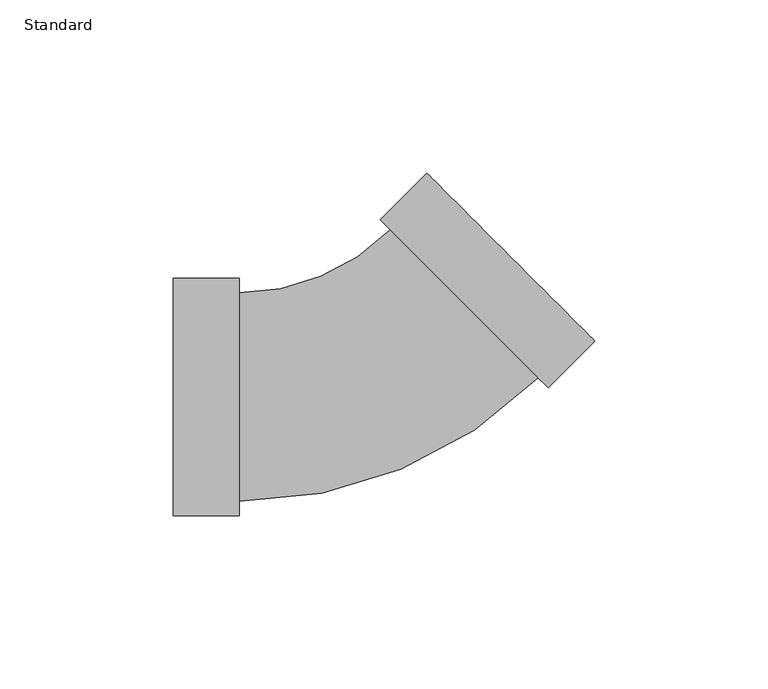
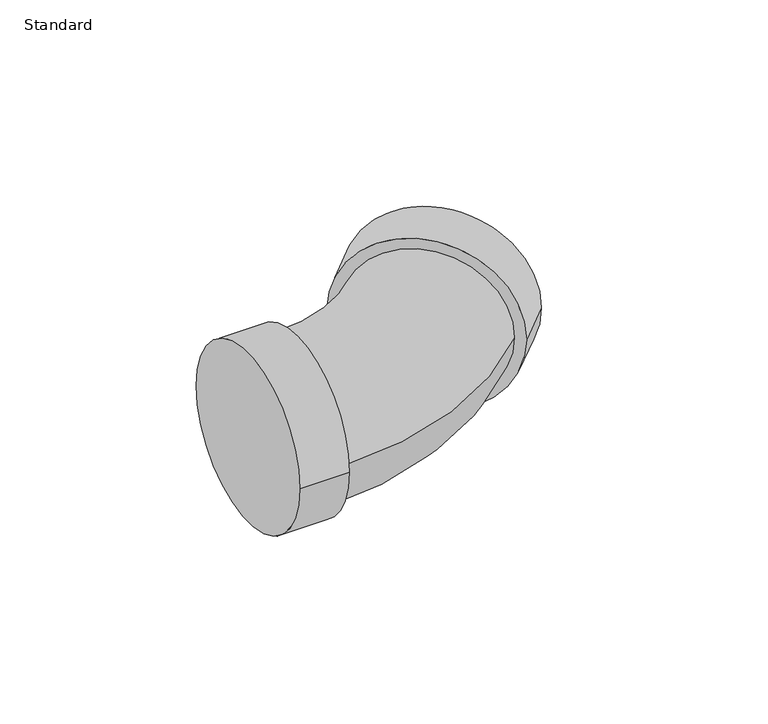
"""IFC4 building model written with IfcOpenShell, lengths in millimetres: pipe fitting geometry, Elbow_45_90-Lubrizol-CPVC-FlowGuard_MX : Standard."""

from ifc_helpers import new_model, si_unit, point, frame, origin, place, context, project, spatial, circle_curve, ellipse_curve, trimmed, source, transform, mapped, element, save
from ifc_brep_helpers import plane_surface, cylinder_surface, revolved_surface, advanced_brep


def standard_5dc662f1(model_context):
    return source(origin(), model_context, "Body", "AdvancedBrep", [
        advanced_brep(
        [(-57.15, -34.3154, 0.0), (-57.15, 34.3154, 0.0), (-38.1, -34.3154, 0.0), (-38.1, 34.3154, 0.0), (-38.1, -30.1625, 0.0), (-38.1, 30.1625, 0.0), (5.6126601, 48.2688767, 0.0), (48.2688767, 5.6126601, 0.0), (51.2054204, 2.6761163, 0.0), (2.6761163, 51.2054204, 0.0), (64.6758046, 16.1465005, 0.0), (16.1465005, 64.6758046, 0.0)],
        [
            (0, 1, circle_curve(frame((-57.15, 0.0, 0.0), z_axis=(-1.0, 0.0, 0.0), x_axis=(0.0, 1.0, 0.0)), 34.3154)),
            (1, 0, circle_curve(frame((-57.15, 0.0, 0.0), z_axis=(-1.0, 0.0, 0.0), x_axis=(0.0, 1.0, 0.0)), 34.3154)),
            (2, 3, circle_curve(frame((-38.1, 0.0, 0.0), z_axis=(1.0, 0.0, 0.0), x_axis=(0.0, 1.0, 0.0)), 34.3154)),
            (3, 2, circle_curve(frame((-38.1, 0.0, 0.0), z_axis=(1.0, 0.0, 0.0), x_axis=(0.0, 1.0, 0.0)), 34.3154)),
            (4, 5, circle_curve(frame((-38.1, 0.0, 0.0), z_axis=(-1.0, 0.0, 0.0), x_axis=(0.0, 1.0, 0.0)), 30.1625)),
            (5, 4, circle_curve(frame((-38.1, 0.0, 0.0), z_axis=(-1.0, 0.0, 0.0), x_axis=(0.0, 1.0, 0.0)), 30.1625)),
            (0, 2),
            (3, 1),
            (6, 5, circle_curve(frame((-38.1, 91.9815367, 0.0), z_axis=(0.0, 0.0, -1.0), x_axis=(0.0, -1.0, 0.0)), 61.8190367)),
            (4, 7, circle_curve(frame((-38.1, 91.9815367, 0.0), z_axis=(0.0, 0.0, 1.0), x_axis=(0.0, -1.0, 0.0)), 122.1440367)),
            (7, 6, circle_curve(frame((26.9407684, 26.9407684, 0.0), z_axis=(-0.7071067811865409, -0.7071067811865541, 0.0), x_axis=(-0.7071067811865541, 0.7071067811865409, 0.0)), 30.1625)),
            (6, 7, circle_curve(frame((26.9407684, 26.9407684, 0.0), z_axis=(-0.7071067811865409, -0.7071067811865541, 0.0), x_axis=(-0.7071067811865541, 0.7071067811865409, 0.0)), 30.1625)),
            (8, 9, circle_curve(frame((26.9407684, 26.9407684, 0.0), z_axis=(-0.7071067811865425, -0.7071067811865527, 0.0), x_axis=(-0.7071067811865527, 0.7071067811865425, 0.0)), 34.3154)),
            (9, 8, circle_curve(frame((26.9407684, 26.9407684, 0.0), z_axis=(-0.7071067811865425, -0.7071067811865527, 0.0), x_axis=(-0.7071067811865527, 0.7071067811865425, 0.0)), 34.3154)),
            (10, 11, circle_curve(frame((40.4111525, 40.4111525, 0.0), z_axis=(0.7071067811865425, 0.7071067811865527, 0.0), x_axis=(-0.7071067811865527, 0.7071067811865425, 0.0)), 34.3154)),
            (11, 10, circle_curve(frame((40.4111525, 40.4111525, 0.0), z_axis=(0.7071067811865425, 0.7071067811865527, 0.0), x_axis=(-0.7071067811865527, 0.7071067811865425, 0.0)), 34.3154)),
            (8, 10),
            (11, 9),
        ],
        [
            plane_surface(frame((-57.15, 0.0, 0.0), z_axis=(-1.0, 0.0, 0.0), x_axis=(0.0, 0.0, 1.0))),
            plane_surface(frame((-38.1, 0.0, 0.0), z_axis=(1.0, 0.0, 0.0), x_axis=(0.0, 0.0, 1.0))),
            cylinder_surface(frame((-57.15, 0.0, 0.0), z_axis=(-1.0, 0.0, 0.0), x_axis=(0.0, 1.0, 0.0)), 34.3154),
            revolved_surface(trimmed(ellipse_curve(frame((-38.1, 0.0, 0.0), z_axis=(-1.0, 0.0, 0.0), x_axis=(0.0, 1.0, 0.0)), 30.1625, 30.1625), [point((-38.1, -30.1625, 0.0))], [point((-38.1, 30.1625, 0.0))], True, "CARTESIAN"), (-38.1, 91.9815367, 0.0), (0.0, 0.0, 1.0)),
            revolved_surface(trimmed(ellipse_curve(frame((-38.1, 0.0, 0.0), z_axis=(-1.0, 0.0, 0.0), x_axis=(0.0, 1.0, 0.0)), 30.1625, 30.1625), [point((-38.1, 30.1625, 0.0))], [point((-38.1, -30.1625, 0.0))], True, "CARTESIAN"), (-38.1, 91.9815367, 0.0), (0.0, 0.0, 1.0)),
            plane_surface(frame((26.9407684, 26.9407684, 0.0), z_axis=(-0.7071067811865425, -0.7071067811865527, 0.0), x_axis=(0.0, 0.0, 1.0))),
            plane_surface(frame((40.4111525, 40.4111525, 0.0), z_axis=(0.7071067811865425, 0.7071067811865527, 0.0), x_axis=(0.0, 0.0, 1.0))),
            cylinder_surface(frame((26.9407684, 26.9407684, 0.0), z_axis=(-0.7071067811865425, -0.7071067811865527, 0.0), x_axis=(-0.7071067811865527, 0.7071067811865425, 0.0)), 34.3154),
        ],
        [
            (0, [[1, 2]]),
            (1, [[3, 4], [5, 6]]),
            (2, [[-1, 7, -4, 8]]),
            (2, [[-2, -8, -3, -7]]),
            (3, [[9, -5, 10, 11]]),
            (4, [[-9, 12, -10, -6]]),
            (5, [[13, 14], [-11, -12]]),
            (6, [[15, 16]]),
            (7, [[-13, 17, -16, 18]]),
            (7, [[-14, -18, -15, -17]]),
        ],
    ),
    ])


if __name__ == "__main__":
    model = new_model("IFC4")
    model_context = context("Model", 3, world=origin())
    ifc_project = project(units=[si_unit("LENGTHUNIT", "METRE", prefix="MILLI")], contexts=[model_context])
    site = spatial("IfcSite", under=ifc_project)
    building = spatial("IfcBuilding", under=site)
    placement = place(None, origin())
    standard_shape = standard_5dc662f1(model_context)
    element("IfcPipeFitting", 1, ObjectType="Elbow_45_90-Lubrizol-CPVC-FlowGuard_MX : Standard", at=placement, inside=building, context=model_context, shape_type="MappedRepresentation", body=[
        mapped(standard_shape, transform((0.0, 0.0, 0.0), x_axis=(1.0, 0.0, 0.0), y_axis=(0.0, 1.0, 0.0), z_axis=(0.0, 0.0, 1.0))),
    ])
    save(model, "model.ifc")
